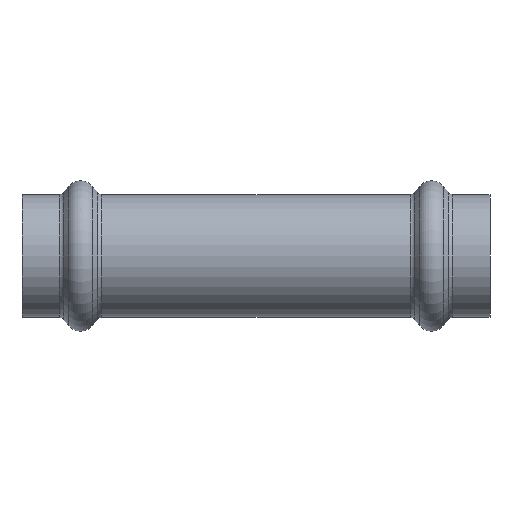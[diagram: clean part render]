
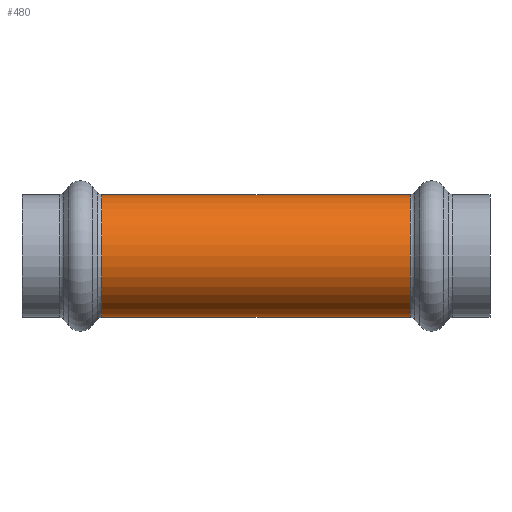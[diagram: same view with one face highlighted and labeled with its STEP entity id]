
A CAD part, front view. The second image highlights one B-rep face of the part: STEP entity #480.
In plain terms, the highlighted cylindrical face has radius 10.5 mm (diameter 21 mm), a partial arc.
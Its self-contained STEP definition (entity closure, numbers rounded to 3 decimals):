
#9 = CARTESIAN_POINT ( 'NONE',  ( 26.349, 0., -10.5 ) ) ;
#30 = AXIS2_PLACEMENT_3D ( 'NONE', #229, #233, #244 ) ;
#42 = DIRECTION ( 'NONE',  ( -1., 0., 0. ) ) ;
#136 = DIRECTION ( 'NONE',  ( -1., 0., 0. ) ) ;
#171 = CARTESIAN_POINT ( 'NONE',  ( -55.033, 0., -10.5 ) ) ;
#229 = CARTESIAN_POINT ( 'NONE',  ( -26.349, 0., 0. ) ) ;
#233 = DIRECTION ( 'NONE',  ( 1., 0., 0. ) ) ;
#244 = DIRECTION ( 'NONE',  ( 0., 0., 1. ) ) ;
#259 = VERTEX_POINT ( 'NONE', #504 ) ;
#293 = ORIENTED_EDGE ( 'NONE', *, *, #958, .T. ) ;
#340 = VERTEX_POINT ( 'NONE', #9 ) ;
#342 = CIRCLE ( 'NONE', #547, 10.5 ) ;
#472 = DIRECTION ( 'NONE',  ( -1., 0., 0. ) ) ;
#476 = CARTESIAN_POINT ( 'NONE',  ( -55.033, 0., 10.5 ) ) ;
#480 = ADVANCED_FACE ( 'NONE', ( #571 ), #726, .T. ) ;
#488 = EDGE_CURVE ( 'NONE', #340, #663, #756, .T. ) ;
#504 = CARTESIAN_POINT ( 'NONE',  ( -26.349, 0., 10.5 ) ) ;
#532 = ORIENTED_EDGE ( 'NONE', *, *, #1121, .T. ) ;
#547 = AXIS2_PLACEMENT_3D ( 'NONE', #850, #854, #857 ) ;
#571 = FACE_OUTER_BOUND ( 'NONE', #1224, .T. ) ;
#655 = CARTESIAN_POINT ( 'NONE',  ( 26.349, 0., 10.5 ) ) ;
#663 = VERTEX_POINT ( 'NONE', #919 ) ;
#726 = CYLINDRICAL_SURFACE ( 'NONE', #1156, 10.5 ) ;
#743 = EDGE_CURVE ( 'NONE', #1026, #259, #947, .T. ) ;
#756 = LINE ( 'NONE', #171, #964 ) ;
#779 = ORIENTED_EDGE ( 'NONE', *, *, #488, .F. ) ;
#850 = CARTESIAN_POINT ( 'NONE',  ( 26.349, 0., 0. ) ) ;
#854 = DIRECTION ( 'NONE',  ( -1., 0., 0. ) ) ;
#857 = DIRECTION ( 'NONE',  ( 0., 0., -1. ) ) ;
#895 = CARTESIAN_POINT ( 'NONE',  ( -55.033, 0., 0. ) ) ;
#919 = CARTESIAN_POINT ( 'NONE',  ( -26.349, 0., -10.5 ) ) ;
#922 = VECTOR ( 'NONE', #472, 1000. ) ;
#947 = LINE ( 'NONE', #476, #922 ) ;
#958 = EDGE_CURVE ( 'NONE', #259, #663, #1211, .T. ) ;
#964 = VECTOR ( 'NONE', #136, 1000. ) ;
#1026 = VERTEX_POINT ( 'NONE', #655 ) ;
#1086 = ORIENTED_EDGE ( 'NONE', *, *, #743, .T. ) ;
#1088 = DIRECTION ( 'NONE',  ( 0., 0., 1. ) ) ;
#1121 = EDGE_CURVE ( 'NONE', #340, #1026, #342, .T. ) ;
#1156 = AXIS2_PLACEMENT_3D ( 'NONE', #895, #42, #1088 ) ;
#1211 = CIRCLE ( 'NONE', #30, 10.5 ) ;
#1224 = EDGE_LOOP ( 'NONE', ( #779, #532, #1086, #293 ) ) ;
